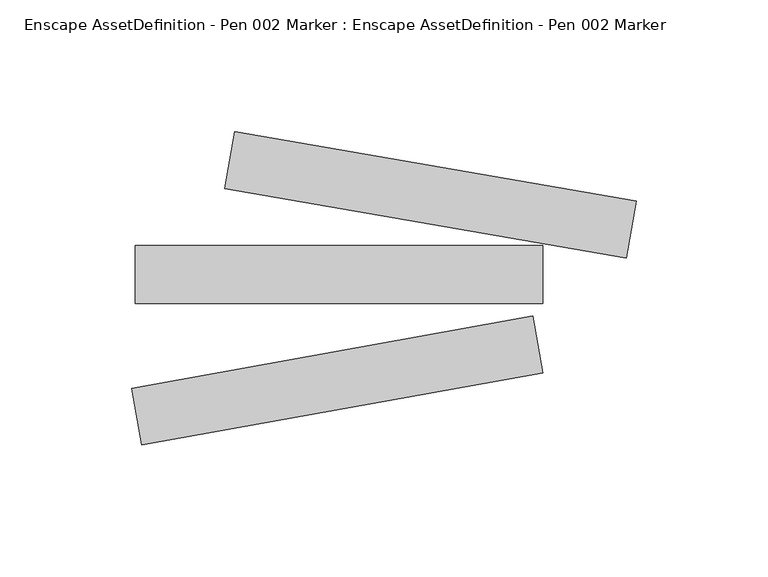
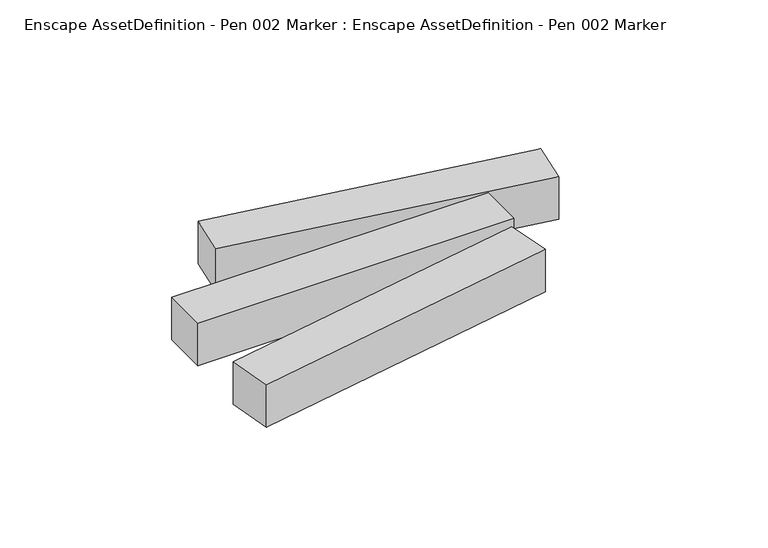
"""IFC4 building model written with IfcOpenShell, lengths in millimetres: geographic element geometry, Enscape AssetDefinition - Pen 002 Marker : Enscape AssetDefinition - Pen 002 Marker."""

from ifc_helpers import new_model, si_unit, origin, place, context, project, spatial, triangles, source, transform, mapped, element, save


def enscape_assetdefinition_pen_002_marker_enscape_031632c2(model_context):
    return source(origin(), model_context, "Body", "Tessellation", [
        triangles([(-78.7460564, -25.5209668, 0.0), (-74.8560141, -47.1261796, 21.9526231), (77.4451184, -19.7042024, 21.9526231), (-74.8560141, -47.1261796, 0.0), (73.5550761, 1.9010194, 21.9526231), (-78.7460564, -25.5209668, 21.9526231), (73.5550761, 1.9010194, 0.0), (77.4451184, -19.7042024, 0.0), (-77.3750736, 6.7400018, 21.9526231), (77.3750736, 6.7400018, 21.9526231), (77.3750736, 28.69263, 0.0), (-77.3750736, 28.69263, 0.0), (-77.3750736, 6.7400018, 0.0), (77.3750736, 6.7400018, 0.0), (-77.3750736, 28.69263, 21.9526231), (77.3750736, 28.69263, 21.9526231), (-43.3119457, 50.3945121, 21.9526231), (-39.5538902, 72.0230702, 0.0), (109.1537662, 23.9029128, 21.9526231), (-39.5538902, 72.0230702, 21.9526231), (112.9118217, 45.5314686, 0.0), (-43.3119457, 50.3945121, 0.0), (112.9118217, 45.5314686, 21.9526231), (109.1537662, 23.9029128, 0.0)], [[20, 23, 21], [23, 24, 21], [23, 19, 24], [21, 24, 22], [19, 22, 24], [21, 22, 18], [20, 21, 18], [23, 20, 17], [19, 17, 22], [17, 20, 18], [23, 17, 19], [17, 18, 22], [16, 14, 11], [15, 16, 11], [16, 10, 14], [15, 10, 16], [11, 14, 13], [10, 13, 14], [11, 13, 12], [15, 11, 12], [15, 9, 10], [10, 9, 13], [9, 15, 12], [9, 12, 13], [5, 8, 7], [6, 5, 7], [5, 3, 8], [6, 3, 5], [7, 8, 4], [3, 4, 8], [7, 4, 1], [6, 7, 1], [6, 2, 3], [3, 2, 4], [2, 6, 1], [2, 1, 4]]),
    ])


if __name__ == "__main__":
    model = new_model("IFC4")
    model_context = context("Model", 3, world=origin())
    ifc_project = project(units=[si_unit("LENGTHUNIT", "METRE", prefix="MILLI")], contexts=[model_context])
    site = spatial("IfcSite", under=ifc_project)
    building = spatial("IfcBuilding", under=site)
    placement = place(None, origin())
    enscape_assetdefinition_pen_002_marker_enscape_shape = enscape_assetdefinition_pen_002_marker_enscape_031632c2(model_context)
    element("IfcGeographicElement", 1, ObjectType="Enscape AssetDefinition - Pen 002 Marker : Enscape AssetDefinition - Pen 002 Marker", at=placement, inside=building, context=model_context, shape_type="MappedRepresentation", body=[
        mapped(enscape_assetdefinition_pen_002_marker_enscape_shape, transform((0.0, 0.0, 0.0), x_axis=(1.0, 0.0, 0.0), y_axis=(0.0, 1.0, 0.0), z_axis=(0.0, 0.0, 1.0))),
    ])
    save(model, "model.ifc")
